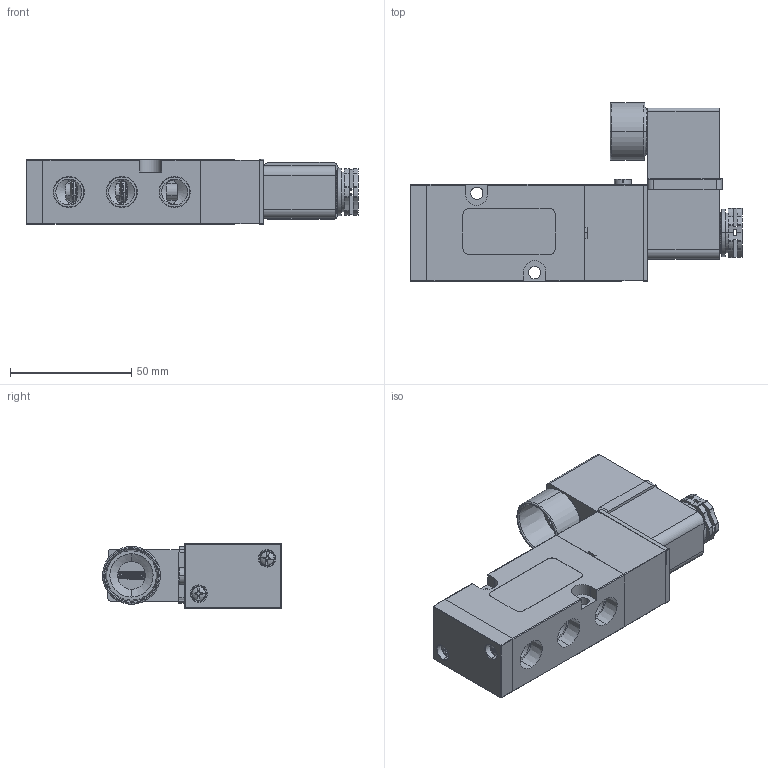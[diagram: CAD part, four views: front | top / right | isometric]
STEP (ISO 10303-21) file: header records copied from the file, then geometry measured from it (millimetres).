
FILE_DESCRIPTION (( 'STEP AP214' ), '1' );
FILE_NAME ('N4S-C.STEP', '2020-11-19T17:43:55', ( '' ), ( '' ), 'SwSTEP 2.0', 'SolidWorks 2017', '' );
FILE_SCHEMA (( 'AUTOMOTIVE_DESIGN' ));
Length unit declared in the file: inch
Products named in the file (41): conduit-connector-n4s; coil-std; coil-gasket; m3x8-panhead; n4s-label; m3x35 PHIL MACHINE SCREW_92000A134; N4S-end-cap; coil-nut; m3x30 HEAD PHILLIPS MACHINE SCREW; m3x8-panhead_90604A723; armature-tube; N4S-spool-cap-plate; m3x30 HEAD PHILLIPS MACHINE SCREW_91420A134; spool-rings; Assem3; N4S-spool-cap; spool; N4SBODY; N4S-C; m3x35 PHIL MACHINE SCREW; Assem2^BN4S-B
Assembly tree (29 placements, depth 3):
  coil-std
  N4S-end-cap
  armature-tube
  N4S-spool-cap-plate
  spool-rings
Bounding box: 137.05 x 73.84 x 26.91 mm (x, y, z)
Volume: 112300.9 mm3; surface area: 61517.3 mm2
Topology: 23 solids, 23 shells, 1956 faces, 5377 edges, 3523 vertices
Faces by surface type: cylinder 1239, plane 468, cone 141, torus 82, bspline 20, sphere 6
Entity records: 74952 total; most frequent: CARTESIAN_POINT 34366, ORIENTED_EDGE 8530, DIRECTION 6945, EDGE_CURVE 4265, VERTEX_POINT 2795, AXIS2_PLACEMENT_3D 2594, LINE 1757, VECTOR 1757
